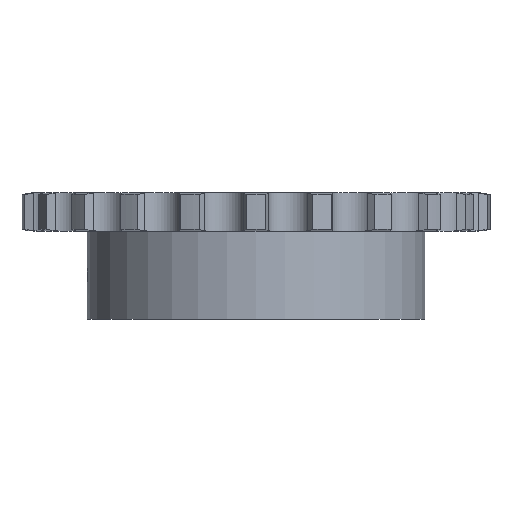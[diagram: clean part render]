
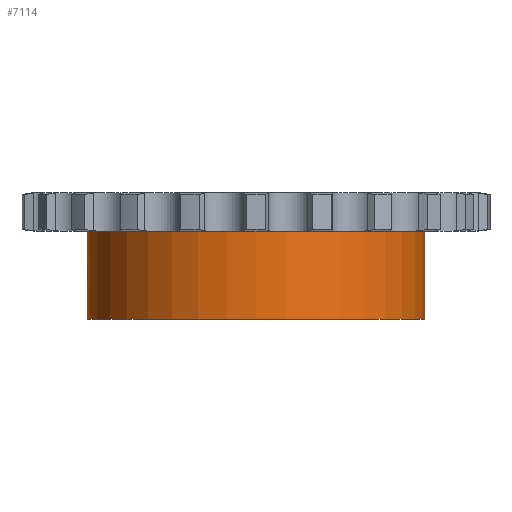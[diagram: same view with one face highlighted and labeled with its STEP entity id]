
A CAD part, front view. The second image highlights one B-rep face of the part: STEP entity #7114.
In plain terms, the highlighted cylindrical face has radius 40 mm (diameter 80 mm), a partial arc.
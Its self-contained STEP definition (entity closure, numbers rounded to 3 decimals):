
#1227=CARTESIAN_POINT('',(0.,0.,-4.55));
#1228=DIRECTION('',(0.,0.,1.));
#1229=DIRECTION('',(-1.,0.,0.));
#1230=AXIS2_PLACEMENT_3D('',#1227,#1228,#1229);
#3555=CARTESIAN_POINT('',(-40.,0.,
-13.));
#3577=DIRECTION('',(0.,0.,1.));
#3578=VECTOR('',#3577,20.9);
#3579=CARTESIAN_POINT('',(40.,0.,-25.45));
#3580=LINE('',#3579,#3578);
#3694=CARTESIAN_POINT('',(-40.,0.,
-13.));
#3695=CARTESIAN_POINT('',(-40.,-0.105,
-13.));
#3696=CARTESIAN_POINT('',(-39.999,-0.313,
-13.016));
#3697=CARTESIAN_POINT('',(-39.995,-0.626,
-13.09));
#3698=CARTESIAN_POINT('',(-39.99,-0.924,
-13.213));
#3699=CARTESIAN_POINT('',(-39.982,-1.196,
-13.379));
#3700=CARTESIAN_POINT('',(-39.974,-1.437,
-13.584));
#3701=CARTESIAN_POINT('',(-39.966,-1.643,
-13.825));
#3702=CARTESIAN_POINT('',(-39.959,-1.809,
-14.096));
#3703=CARTESIAN_POINT('',(-39.953,-1.93,
-14.39));
#3704=CARTESIAN_POINT('',(-39.95,-2.002,
-14.697));
#3705=CARTESIAN_POINT('',(-39.949,-2.018,
-14.899));
#3706=CARTESIAN_POINT('',(-39.949,-2.018,
-15.));
#3711=DIRECTION('',(0.,0.,1.));
#3712=VECTOR('',#3711,8.45);
#3713=CARTESIAN_POINT('',(-40.,0.,
-13.));
#3714=LINE('',#3713,#3712);
#3718=DIRECTION('',(0.,0.,1.));
#3719=VECTOR('',#3718,8.45);
#3720=CARTESIAN_POINT('',(-40.,0.,-25.45));
#3721=LINE('',#3720,#3719);
#3725=CARTESIAN_POINT('',(-39.949,-2.018,
-15.));
#3726=CARTESIAN_POINT('',(-39.949,-2.018,
-15.101));
#3727=CARTESIAN_POINT('',(-39.95,-2.002,
-15.302));
#3728=CARTESIAN_POINT('',(-39.953,-1.931,
-15.608));
#3729=CARTESIAN_POINT('',(-39.959,-1.81,
-15.902));
#3730=CARTESIAN_POINT('',(-39.966,-1.644,
-16.175));
#3731=CARTESIAN_POINT('',(-39.974,-1.437,
-16.415));
#3732=CARTESIAN_POINT('',(-39.982,-1.197,
-16.62));
#3733=CARTESIAN_POINT('',(-39.99,-0.925,
-16.787));
#3734=CARTESIAN_POINT('',(-39.995,-0.627,
-16.91));
#3735=CARTESIAN_POINT('',(-39.999,-0.313,
-16.984));
#3736=CARTESIAN_POINT('',(-40.,-0.105,
-17.));
#3737=CARTESIAN_POINT('',(-40.,0.,
-17.));
#3750=CARTESIAN_POINT('',(0.,0.,-25.45));
#3751=DIRECTION('',(0.,0.,-1.));
#3752=DIRECTION('',(1.,0.,0.));
#3753=AXIS2_PLACEMENT_3D('',#3750,#3751,#3752);
#4143=CARTESIAN_POINT('',(-40.,0.,-25.45));
#4144=CARTESIAN_POINT('',(40.,0.,-25.45));
#4145=VERTEX_POINT('',#4143);
#4146=VERTEX_POINT('',#4144);
#4147=CARTESIAN_POINT('',(40.,0.,-4.55));
#4148=VERTEX_POINT('',#4147);
#4149=CARTESIAN_POINT('',(-40.,0.,-4.55));
#4150=VERTEX_POINT('',#4149);
#4396=VERTEX_POINT('',#3555);
#4399=VERTEX_POINT('',#3706);
#4401=VERTEX_POINT('',#3737);
#7098=CARTESIAN_POINT('',(0.,0.,4.55));
#7099=DIRECTION('',(0.,0.,1.));
#7100=DIRECTION('',(1.,0.,0.));
#7101=AXIS2_PLACEMENT_3D('',#7098,#7099,#7100);
#7102=CYLINDRICAL_SURFACE('',#7101,40.);
#7103=ORIENTED_EDGE('',*,*,#7088,.F.);
#7104=ORIENTED_EDGE('',*,*,#6727,.T.);
#7105=ORIENTED_EDGE('',*,*,#5670,.T.);
#7106=ORIENTED_EDGE('',*,*,#6724,.F.);
#7108=ORIENTED_EDGE('',*,*,#7107,.T.);
#7109=ORIENTED_EDGE('',*,*,#6720,.T.);
#7111=ORIENTED_EDGE('',*,*,#7110,.F.);
#7112=EDGE_LOOP('',(#7103,#7104,#7105,#7106,#7108,#7109,#7111));
#7113=FACE_OUTER_BOUND('',#7112,.F.);
#7114=ADVANCED_FACE('',(#7113),#7102,.T.);
#1231=CIRCLE('',#1230,40.);
#3707=B_SPLINE_CURVE_WITH_KNOTS('',3,(#3694,#3695,#3696,#3697,#3698,#3699,#3700,
#3701,#3702,#3703,#3704,#3705,#3706),.UNSPECIFIED.,.F.,.F.,(4,1,1,1,1,1,1,1,1,1,
4),(0.,0.1,0.2,0.3,0.4,0.5,0.6,0.7,0.8,0.9,1.),
.UNSPECIFIED.);
#3738=B_SPLINE_CURVE_WITH_KNOTS('',3,(#3725,#3726,#3727,#3728,#3729,#3730,#3731,
#3732,#3733,#3734,#3735,#3736,#3737),.UNSPECIFIED.,.F.,.F.,(4,1,1,1,1,1,1,1,1,1,
4),(0.,0.1,0.2,0.3,0.4,0.5,0.6,0.7,0.8,0.9,1.),
.UNSPECIFIED.);
#3754=CIRCLE('',#3753,40.);
#5670=EDGE_CURVE('',#4150,#4148,#1231,.T.);
#6720=EDGE_CURVE('',#4145,#4401,#3721,.T.);
#6724=EDGE_CURVE('',#4146,#4148,#3580,.T.);
#6727=EDGE_CURVE('',#4396,#4150,#3714,.T.);
#7088=EDGE_CURVE('',#4396,#4399,#3707,.T.);
#7107=EDGE_CURVE('',#4146,#4145,#3754,.T.);
#7110=EDGE_CURVE('',#4399,#4401,#3738,.T.);
